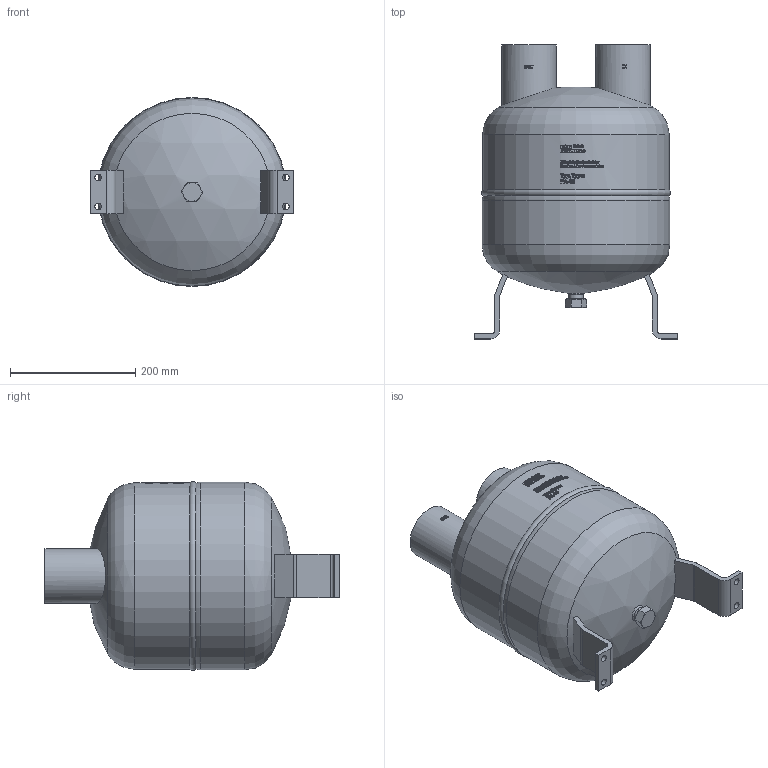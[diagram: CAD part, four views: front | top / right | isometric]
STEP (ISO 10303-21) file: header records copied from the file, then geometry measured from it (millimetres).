
FILE_DESCRIPTION(/* description */ (''),/* implementation_level */ '2;1');
FILE_NAME(/* name */ 'P:\FA\FA-80\FA-80.stp',/* time_stamp */ '2017-10-05T08:03:12+02:00',/* author */ ('neufeld'),/* organization */ (''),/* preprocessor_version */ 'ST-DEVELOPER v16.1',/* originating_system */ 'Autodesk Inventor 2016',/* authorisation */ '');
FILE_SCHEMA (('AUTOMOTIVE_DESIGN { 1 0 10303 214 3 1 1 }'));
Length unit declared in the file: millimetre
Products named in the file (2): FA-80; FA-80_1
Assembly tree (1 placements, depth 2):
  FA-80_1
    FA-80
Bounding box: 324 x 469.9 x 302.1 mm (x, y, z)
Volume: 20294557.8 mm3; surface area: 474766.2 mm2
Topology: 1 solids, 1 shells, 1258 faces, 3408 edges, 2266 vertices
Faces by surface type: plane 673, bspline 439, cylinder 126, cone 13, torus 5, sphere 2
Full cylindrical faces by diameter (mm): 10.5 x4, 22.5 x1, 23.6 x1, 80.3 x2, 87 x2, 298 x1, 300 x1
Entity records: 49249 total; most frequent: CARTESIAN_POINT 19807, ORIENTED_EDGE 6776, DIRECTION 4992, EDGE_CURVE 3388, VERTEX_POINT 2264, AXIS2_PLACEMENT_3D 1686, LINE 1620, VECTOR 1620
